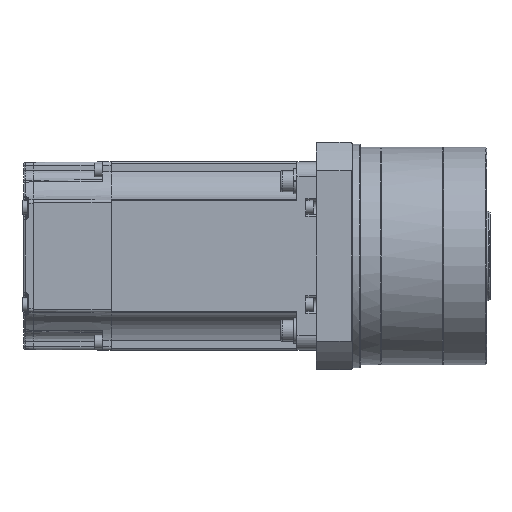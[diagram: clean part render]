
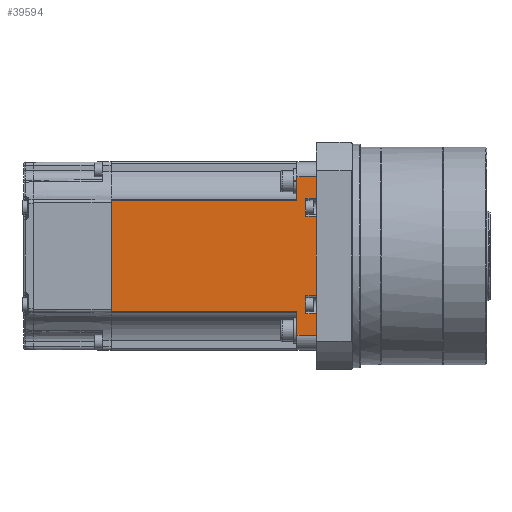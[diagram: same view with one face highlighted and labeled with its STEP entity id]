
A CAD part, front view. The second image highlights one B-rep face of the part: STEP entity #39594.
In plain terms, the highlighted planar face has unit normal (0, -1, 0).
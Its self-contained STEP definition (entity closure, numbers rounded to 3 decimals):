
#3939=LINE('',#61904,#6806);
#3942=LINE('',#61919,#6809);
#3981=LINE('',#62064,#6848);
#3993=LINE('',#62094,#6860);
#3994=LINE('',#62097,#6861);
#3995=LINE('',#62099,#6862);
#3996=LINE('',#62101,#6863);
#3997=LINE('',#62102,#6864);
#3998=LINE('',#62104,#6865);
#3999=LINE('',#62106,#6866);
#4000=LINE('',#62108,#6867);
#4001=LINE('',#62110,#6868);
#4002=LINE('',#62112,#6869);
#4003=LINE('',#62114,#6870);
#4004=LINE('',#62116,#6871);
#4005=LINE('',#62117,#6872);
#6806=VECTOR('',#48484,10.);
#6809=VECTOR('',#48497,10.);
#6848=VECTOR('',#48644,10.);
#6860=VECTOR('',#48668,10.);
#6861=VECTOR('',#48673,10.);
#6862=VECTOR('',#48674,10.);
#6863=VECTOR('',#48675,10.);
#6864=VECTOR('',#48676,10.);
#6865=VECTOR('',#48677,10.);
#6866=VECTOR('',#48678,10.);
#6867=VECTOR('',#48679,10.);
#6868=VECTOR('',#48680,10.);
#6869=VECTOR('',#48681,10.);
#6870=VECTOR('',#48682,10.);
#6871=VECTOR('',#48683,10.);
#6872=VECTOR('',#48684,10.);
#9595=FACE_OUTER_BOUND('',#11918,.T.);
#11918=EDGE_LOOP('',(#28627,#28628,#28629,#28630,#28631,#28632,#28633,#28634,
#28635,#28636,#28637,#28638,#28639,#28640,#28641,#28642));
#16260=VERTEX_POINT('',#61901);
#16261=VERTEX_POINT('',#61903);
#16267=VERTEX_POINT('',#61916);
#16268=VERTEX_POINT('',#61918);
#16320=VERTEX_POINT('',#62062);
#16331=VERTEX_POINT('',#62091);
#16332=VERTEX_POINT('',#62093);
#16333=VERTEX_POINT('',#62098);
#16334=VERTEX_POINT('',#62100);
#16335=VERTEX_POINT('',#62103);
#16336=VERTEX_POINT('',#62105);
#16337=VERTEX_POINT('',#62107);
#16338=VERTEX_POINT('',#62109);
#16339=VERTEX_POINT('',#62111);
#16340=VERTEX_POINT('',#62113);
#16341=VERTEX_POINT('',#62115);
#20734=EDGE_CURVE('',#16260,#16261,#3939,.T.);
#20741=EDGE_CURVE('',#16267,#16268,#3942,.T.);
#20812=EDGE_CURVE('',#16268,#16320,#3981,.T.);
#20827=EDGE_CURVE('',#16332,#16331,#3993,.T.);
#20829=EDGE_CURVE('',#16331,#16320,#3994,.T.);
#20830=EDGE_CURVE('',#16333,#16267,#3995,.T.);
#20831=EDGE_CURVE('',#16333,#16334,#3996,.T.);
#20832=EDGE_CURVE('',#16261,#16334,#3997,.T.);
#20833=EDGE_CURVE('',#16335,#16260,#3998,.T.);
#20834=EDGE_CURVE('',#16335,#16336,#3999,.T.);
#20835=EDGE_CURVE('',#16337,#16336,#4000,.T.);
#20836=EDGE_CURVE('',#16337,#16338,#4001,.T.);
#20837=EDGE_CURVE('',#16339,#16338,#4002,.T.);
#20838=EDGE_CURVE('',#16339,#16340,#4003,.T.);
#20839=EDGE_CURVE('',#16341,#16340,#4004,.T.);
#20840=EDGE_CURVE('',#16341,#16332,#4005,.T.);
#28627=ORIENTED_EDGE('',*,*,#20829,.T.);
#28628=ORIENTED_EDGE('',*,*,#20812,.F.);
#28629=ORIENTED_EDGE('',*,*,#20741,.F.);
#28630=ORIENTED_EDGE('',*,*,#20830,.F.);
#28631=ORIENTED_EDGE('',*,*,#20831,.T.);
#28632=ORIENTED_EDGE('',*,*,#20832,.F.);
#28633=ORIENTED_EDGE('',*,*,#20734,.F.);
#28634=ORIENTED_EDGE('',*,*,#20833,.F.);
#28635=ORIENTED_EDGE('',*,*,#20834,.T.);
#28636=ORIENTED_EDGE('',*,*,#20835,.F.);
#28637=ORIENTED_EDGE('',*,*,#20836,.T.);
#28638=ORIENTED_EDGE('',*,*,#20837,.F.);
#28639=ORIENTED_EDGE('',*,*,#20838,.T.);
#28640=ORIENTED_EDGE('',*,*,#20839,.F.);
#28641=ORIENTED_EDGE('',*,*,#20840,.T.);
#28642=ORIENTED_EDGE('',*,*,#20827,.T.);
#36372=PLANE('',#42655);
#39594=ADVANCED_FACE('',(#9595),#36372,.T.);
#42655=AXIS2_PLACEMENT_3D('',#62096,#48671,#48672);
#48484=DIRECTION('',(0.,0.,-1.));
#48497=DIRECTION('',(0.,0.,-1.));
#48644=DIRECTION('',(1.,0.,-0.009));
#48668=DIRECTION('',(1.,0.,0.));
#48671=DIRECTION('center_axis',(0.,-1.,0.));
#48672=DIRECTION('ref_axis',(-1.,0.,0.));
#48673=DIRECTION('',(0.,0.,1.));
#48674=DIRECTION('',(-1.,0.,-0.009));
#48675=DIRECTION('',(0.,0.,1.));
#48676=DIRECTION('',(1.,0.,-0.009));
#48677=DIRECTION('',(-1.,0.,-0.009));
#48678=DIRECTION('',(0.,0.,1.));
#48679=DIRECTION('',(1.,0.,0.));
#48680=DIRECTION('',(0.,0.,-1.));
#48681=DIRECTION('',(1.,0.,0.));
#48682=DIRECTION('',(0.,0.,-1.));
#48683=DIRECTION('',(-1.,0.,0.));
#48684=DIRECTION('',(0.,0.,-1.));
#61901=CARTESIAN_POINT('',(7.5,-58.,35.5));
#61903=CARTESIAN_POINT('',(7.5,-58.,24.5));
#61904=CARTESIAN_POINT('',(7.5,-58.,-9.5));
#61916=CARTESIAN_POINT('',(7.5,-58.,-24.5));
#61918=CARTESIAN_POINT('',(7.5,-58.,-35.5));
#61919=CARTESIAN_POINT('',(7.5,-58.,-39.5));
#62062=CARTESIAN_POINT('',(14.,-58.,-35.557));
#62064=CARTESIAN_POINT('',(8.055,-58.,-35.505));
#62091=CARTESIAN_POINT('',(14.,-58.,-49.));
#62093=CARTESIAN_POINT('',(2.,-58.,-49.));
#62094=CARTESIAN_POINT('',(1.5,-58.,-49.));
#62096=CARTESIAN_POINT('Origin',(1.5,-58.,-49.));
#62097=CARTESIAN_POINT('',(14.,-58.,-24.5));
#62098=CARTESIAN_POINT('',(14.,-58.,-24.443));
#62099=CARTESIAN_POINT('',(7.889,-58.,-24.497));
#62100=CARTESIAN_POINT('',(14.,-58.,24.443));
#62101=CARTESIAN_POINT('',(14.,-58.,-24.5));
#62102=CARTESIAN_POINT('',(8.316,-58.,24.493));
#62103=CARTESIAN_POINT('',(14.,-58.,35.557));
#62104=CARTESIAN_POINT('',(7.627,-58.,35.501));
#62105=CARTESIAN_POINT('',(14.,-58.,49.));
#62106=CARTESIAN_POINT('',(14.,-58.,-24.5));
#62107=CARTESIAN_POINT('',(2.,-58.,49.));
#62108=CARTESIAN_POINT('',(1.5,-58.,49.));
#62109=CARTESIAN_POINT('',(2.,-58.,34.));
#62110=CARTESIAN_POINT('',(2.,-58.,-24.5));
#62111=CARTESIAN_POINT('',(-112.5,-58.,34.));
#62112=CARTESIAN_POINT('',(-104.,-58.,34.));
#62113=CARTESIAN_POINT('',(-112.5,-58.,-34.));
#62114=CARTESIAN_POINT('',(-112.5,-58.,17.5));
#62115=CARTESIAN_POINT('',(2.,-58.,-34.));
#62116=CARTESIAN_POINT('',(-104.,-58.,-34.));
#62117=CARTESIAN_POINT('',(2.,-58.,-24.5));
